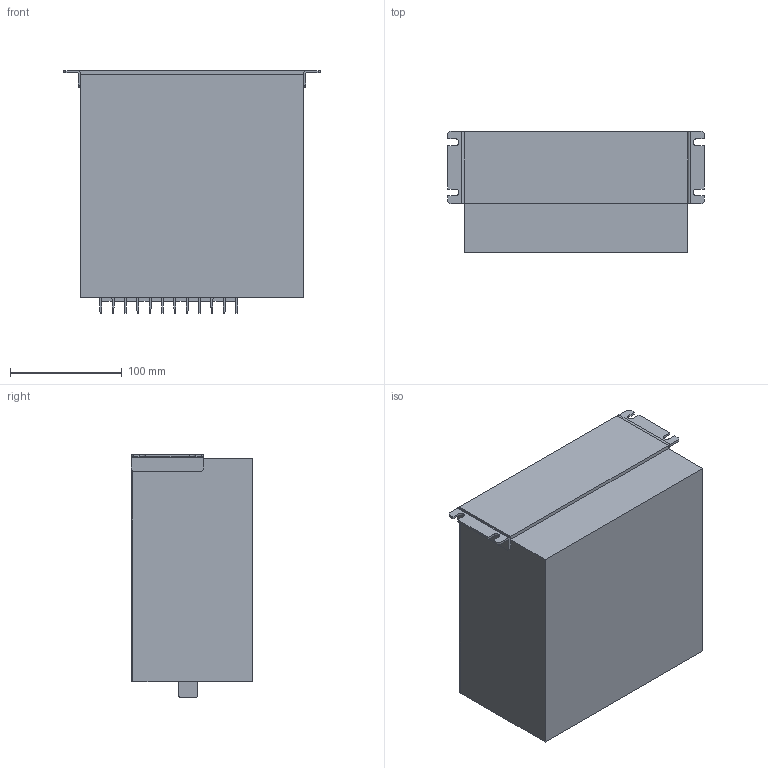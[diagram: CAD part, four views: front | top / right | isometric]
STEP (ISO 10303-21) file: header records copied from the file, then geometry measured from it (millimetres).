
FILE_DESCRIPTION (( 'STEP AP214' ), '1' );
FILE_NAME ('EP100-5A.STEP', '2015-09-29T06:10:02', ( '湮華炵苀' ), ( 'www.dadighost.com' ), 'SwSTEP 2.0', 'SolidWorks 2013', '' );
FILE_SCHEMA (( 'AUTOMOTIVE_DESIGN' ));
Length unit declared in the file: millimetre
Products named in the file (1): EP100-5A
Bounding box: 230 x 109 x 217.67 mm (x, y, z)
Volume: 4422491.3 mm3; surface area: 180823.6 mm2
Topology: 1 solids, 1 shells, 261 faces, 727 edges, 478 vertices
Faces by surface type: plane 200, cylinder 52, torus 9
Entity records: 8274 total; most frequent: CARTESIAN_POINT 1631, ORIENTED_EDGE 1454, DIRECTION 1262, EDGE_CURVE 727, VECTOR 612, LINE 612, VERTEX_POINT 478, AXIS2_PLACEMENT_3D 325
